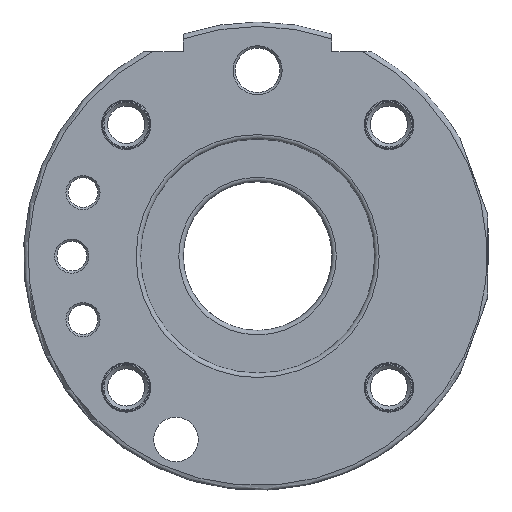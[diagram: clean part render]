
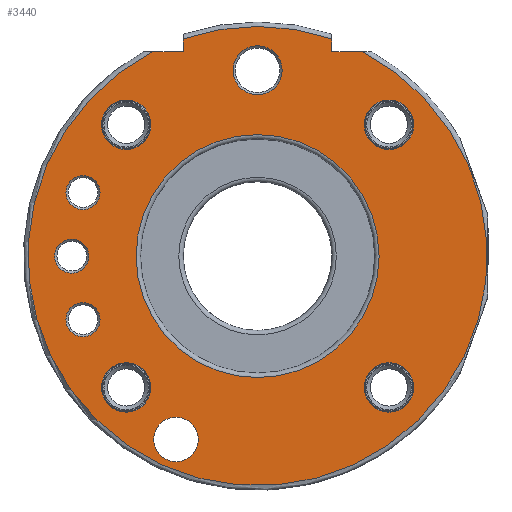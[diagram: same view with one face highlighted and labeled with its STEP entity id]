
A CAD part, front view. The second image highlights one B-rep face of the part: STEP entity #3440.
In plain terms, the highlighted planar face has unit normal (0, -1, 0).
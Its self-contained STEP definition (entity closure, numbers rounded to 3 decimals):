
#306=LINE('',#6161,#496);
#307=LINE('',#6162,#497);
#308=LINE('',#6164,#498);
#309=LINE('',#6165,#499);
#496=VECTOR('',#4483,10.);
#497=VECTOR('',#4484,10.);
#498=VECTOR('',#4485,10.);
#499=VECTOR('',#4486,10.);
#636=FACE_BOUND('',#990,.T.);
#637=FACE_BOUND('',#991,.T.);
#638=FACE_BOUND('',#992,.T.);
#639=FACE_BOUND('',#993,.T.);
#640=FACE_BOUND('',#994,.T.);
#641=FACE_BOUND('',#995,.T.);
#642=FACE_BOUND('',#996,.T.);
#643=FACE_BOUND('',#997,.T.);
#644=FACE_BOUND('',#998,.T.);
#645=FACE_BOUND('',#999,.T.);
#781=FACE_OUTER_BOUND('',#989,.T.);
#989=EDGE_LOOP('',(#2686,#2687,#2688,#2689,#2690,#2691));
#990=EDGE_LOOP('',(#2692));
#991=EDGE_LOOP('',(#2693));
#992=EDGE_LOOP('',(#2694));
#993=EDGE_LOOP('',(#2695));
#994=EDGE_LOOP('',(#2696));
#995=EDGE_LOOP('',(#2697));
#996=EDGE_LOOP('',(#2698));
#997=EDGE_LOOP('',(#2699));
#998=EDGE_LOOP('',(#2700));
#999=EDGE_LOOP('',(#2701));
#1195=CIRCLE('',#3751,30.9);
#1199=CIRCLE('',#3758,2.3);
#1201=CIRCLE('',#3761,30.9);
#1202=CIRCLE('',#3762,2.3);
#1203=CIRCLE('',#3763,16.35);
#1204=CIRCLE('',#3764,3.324);
#1205=CIRCLE('',#3765,3.324);
#1206=CIRCLE('',#3766,3.324);
#1207=CIRCLE('',#3767,3.324);
#1208=CIRCLE('',#3768,3.);
#1209=CIRCLE('',#3769,3.3);
#1210=CIRCLE('',#3770,2.3);
#1484=VERTEX_POINT('',#6113);
#1485=VERTEX_POINT('',#6126);
#1489=VERTEX_POINT('',#6151);
#1491=VERTEX_POINT('',#6157);
#1492=VERTEX_POINT('',#6158);
#1493=VERTEX_POINT('',#6160);
#1494=VERTEX_POINT('',#6163);
#1495=VERTEX_POINT('',#6166);
#1496=VERTEX_POINT('',#6168);
#1497=VERTEX_POINT('',#6170);
#1498=VERTEX_POINT('',#6172);
#1499=VERTEX_POINT('',#6174);
#1500=VERTEX_POINT('',#6176);
#1501=VERTEX_POINT('',#6178);
#1502=VERTEX_POINT('',#6180);
#1503=VERTEX_POINT('',#6182);
#1906=EDGE_CURVE('',#1484,#1485,#1195,.T.);
#1913=EDGE_CURVE('',#1489,#1489,#1199,.T.);
#1916=EDGE_CURVE('',#1491,#1492,#1201,.T.);
#1917=EDGE_CURVE('',#1491,#1493,#306,.T.);
#1918=EDGE_CURVE('',#1493,#1485,#307,.T.);
#1919=EDGE_CURVE('',#1484,#1494,#308,.T.);
#1920=EDGE_CURVE('',#1494,#1492,#309,.T.);
#1921=EDGE_CURVE('',#1495,#1495,#1202,.T.);
#1922=EDGE_CURVE('',#1496,#1496,#1203,.T.);
#1923=EDGE_CURVE('',#1497,#1497,#1204,.T.);
#1924=EDGE_CURVE('',#1498,#1498,#1205,.T.);
#1925=EDGE_CURVE('',#1499,#1499,#1206,.T.);
#1926=EDGE_CURVE('',#1500,#1500,#1207,.T.);
#1927=EDGE_CURVE('',#1501,#1501,#1208,.T.);
#1928=EDGE_CURVE('',#1502,#1502,#1209,.T.);
#1929=EDGE_CURVE('',#1503,#1503,#1210,.T.);
#2686=ORIENTED_EDGE('',*,*,#1916,.F.);
#2687=ORIENTED_EDGE('',*,*,#1917,.T.);
#2688=ORIENTED_EDGE('',*,*,#1918,.T.);
#2689=ORIENTED_EDGE('',*,*,#1906,.F.);
#2690=ORIENTED_EDGE('',*,*,#1919,.T.);
#2691=ORIENTED_EDGE('',*,*,#1920,.T.);
#2692=ORIENTED_EDGE('',*,*,#1921,.F.);
#2693=ORIENTED_EDGE('',*,*,#1922,.F.);
#2694=ORIENTED_EDGE('',*,*,#1923,.T.);
#2695=ORIENTED_EDGE('',*,*,#1924,.T.);
#2696=ORIENTED_EDGE('',*,*,#1925,.T.);
#2697=ORIENTED_EDGE('',*,*,#1926,.T.);
#2698=ORIENTED_EDGE('',*,*,#1927,.T.);
#2699=ORIENTED_EDGE('',*,*,#1928,.F.);
#2700=ORIENTED_EDGE('',*,*,#1929,.F.);
#2701=ORIENTED_EDGE('',*,*,#1913,.F.);
#3116=PLANE('',#3760);
#3440=ADVANCED_FACE('',(#781,#636,#637,#638,#639,#640,#641,#642,#643,#644,
#645),#3116,.T.);
#3751=AXIS2_PLACEMENT_3D('',#6127,#4458,#4459);
#3758=AXIS2_PLACEMENT_3D('',#6152,#4474,#4475);
#3760=AXIS2_PLACEMENT_3D('',#6156,#4479,#4480);
#3761=AXIS2_PLACEMENT_3D('',#6159,#4481,#4482);
#3762=AXIS2_PLACEMENT_3D('',#6167,#4487,#4488);
#3763=AXIS2_PLACEMENT_3D('',#6169,#4489,#4490);
#3764=AXIS2_PLACEMENT_3D('',#6171,#4491,#4492);
#3765=AXIS2_PLACEMENT_3D('',#6173,#4493,#4494);
#3766=AXIS2_PLACEMENT_3D('',#6175,#4495,#4496);
#3767=AXIS2_PLACEMENT_3D('',#6177,#4497,#4498);
#3768=AXIS2_PLACEMENT_3D('',#6179,#4499,#4500);
#3769=AXIS2_PLACEMENT_3D('',#6181,#4501,#4502);
#3770=AXIS2_PLACEMENT_3D('',#6183,#4503,#4504);
#4458=DIRECTION('center_axis',(0.,1.,0.));
#4459=DIRECTION('ref_axis',(0.,0.,-1.));
#4474=DIRECTION('center_axis',(0.,-1.,0.));
#4475=DIRECTION('ref_axis',(1.,0.,0.));
#4479=DIRECTION('center_axis',(0.,-1.,0.));
#4480=DIRECTION('ref_axis',(0.,0.,-1.));
#4481=DIRECTION('center_axis',(0.,1.,0.));
#4482=DIRECTION('ref_axis',(0.,0.,1.));
#4483=DIRECTION('',(0.,0.,-1.));
#4484=DIRECTION('',(-1.,0.,0.));
#4485=DIRECTION('',(-1.,0.,0.));
#4486=DIRECTION('',(0.,0.,1.));
#4487=DIRECTION('center_axis',(0.,-1.,0.));
#4488=DIRECTION('ref_axis',(1.,0.,0.));
#4489=DIRECTION('center_axis',(0.,-1.,0.));
#4490=DIRECTION('ref_axis',(1.,0.,0.));
#4491=DIRECTION('center_axis',(0.,1.,0.));
#4492=DIRECTION('ref_axis',(1.,0.,0.));
#4493=DIRECTION('center_axis',(0.,1.,0.));
#4494=DIRECTION('ref_axis',(1.,0.,0.));
#4495=DIRECTION('center_axis',(0.,1.,0.));
#4496=DIRECTION('ref_axis',(1.,0.,0.));
#4497=DIRECTION('center_axis',(0.,1.,0.));
#4498=DIRECTION('ref_axis',(1.,0.,0.));
#4499=DIRECTION('center_axis',(0.,1.,0.));
#4500=DIRECTION('ref_axis',(1.,0.,0.));
#4501=DIRECTION('center_axis',(0.,-1.,0.));
#4502=DIRECTION('ref_axis',(-1.,0.,0.));
#4503=DIRECTION('center_axis',(0.,-1.,0.));
#4504=DIRECTION('ref_axis',(1.,0.,0.));
#6113=CARTESIAN_POINT('',(14.091,0.,27.5));
#6126=CARTESIAN_POINT('',(-14.091,0.,27.5));
#6127=CARTESIAN_POINT('Origin',(0.,0.,0.));
#6151=CARTESIAN_POINT('',(-25.792,0.,8.551));
#6152=CARTESIAN_POINT('Origin',(-23.492,0.,
8.551));
#6156=CARTESIAN_POINT('Origin',(-23.625,0.,0.));
#6157=CARTESIAN_POINT('',(-10.,0.,29.237));
#6158=CARTESIAN_POINT('',(10.,0.,29.237));
#6159=CARTESIAN_POINT('Origin',(0.,0.,0.));
#6160=CARTESIAN_POINT('',(-10.,0.,27.5));
#6161=CARTESIAN_POINT('',(-10.,0.,15.75));
#6162=CARTESIAN_POINT('',(-21.813,0.,27.5));
#6163=CARTESIAN_POINT('',(10.,0.,27.5));
#6164=CARTESIAN_POINT('',(-1.813,0.,27.5));
#6165=CARTESIAN_POINT('',(10.,0.,15.75));
#6166=CARTESIAN_POINT('',(-27.3,0.,0.));
#6167=CARTESIAN_POINT('Origin',(-25.,0.,0.));
#6168=CARTESIAN_POINT('',(0.,0.,-16.35));
#6169=CARTESIAN_POINT('Origin',(0.,0.,0.));
#6170=CARTESIAN_POINT('',(14.354,0.,-17.678));
#6171=CARTESIAN_POINT('Origin',(17.678,0.,
-17.678));
#6172=CARTESIAN_POINT('',(-21.001,0.,-17.678));
#6173=CARTESIAN_POINT('Origin',(-17.678,0.,
-17.678));
#6174=CARTESIAN_POINT('',(-21.001,0.,17.678));
#6175=CARTESIAN_POINT('Origin',(-17.678,0.,
17.678));
#6176=CARTESIAN_POINT('',(14.354,0.,17.678));
#6177=CARTESIAN_POINT('Origin',(17.678,0.,
17.678));
#6178=CARTESIAN_POINT('',(-13.982,0.,-24.666));
#6179=CARTESIAN_POINT('Origin',(-10.982,0.,
-24.666));
#6180=CARTESIAN_POINT('',(3.3,0.,25.));
#6181=CARTESIAN_POINT('Origin',(0.,0.,
25.));
#6182=CARTESIAN_POINT('',(-25.792,0.,-8.551));
#6183=CARTESIAN_POINT('Origin',(-23.492,0.,
-8.551));
